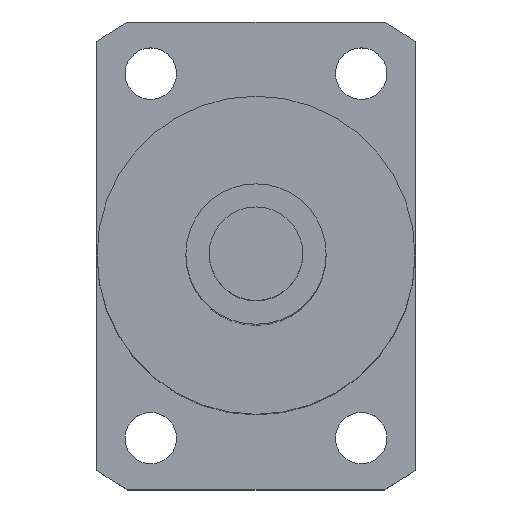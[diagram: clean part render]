
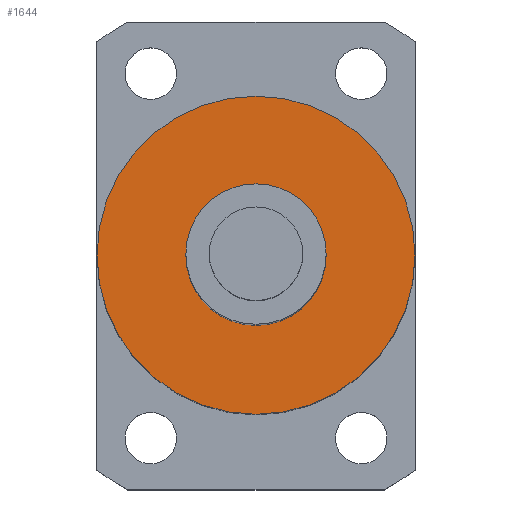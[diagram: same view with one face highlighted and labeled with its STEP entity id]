
A CAD part, top view. The second image highlights one B-rep face of the part: STEP entity #1644.
In plain terms, the highlighted planar face has unit normal (0, 0, 1).
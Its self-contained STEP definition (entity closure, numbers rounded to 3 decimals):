
#512=CARTESIAN_POINT('',(0.,0.,182.5));
#513=DIRECTION('',(0.,0.,1.));
#514=DIRECTION('',(1.,0.,0.));
#515=AXIS2_PLACEMENT_3D('',#512,#513,#514);
#517=CARTESIAN_POINT('',(0.,0.,182.5));
#518=DIRECTION('',(0.,0.,1.));
#519=DIRECTION('',(-1.,0.,0.));
#520=AXIS2_PLACEMENT_3D('',#517,#518,#519);
#522=CARTESIAN_POINT('',(0.,0.,182.5));
#523=DIRECTION('',(0.,0.,1.));
#524=DIRECTION('',(1.,0.,0.));
#525=AXIS2_PLACEMENT_3D('',#522,#523,#524);
#527=CARTESIAN_POINT('',(0.,0.,182.5));
#528=DIRECTION('',(0.,0.,1.));
#529=DIRECTION('',(-1.,0.,0.));
#530=AXIS2_PLACEMENT_3D('',#527,#528,#529);
#757=CARTESIAN_POINT('',(17.,0.,182.5));
#758=CARTESIAN_POINT('',(-17.,0.,182.5));
#759=VERTEX_POINT('',#757);
#760=VERTEX_POINT('',#758);
#769=CARTESIAN_POINT('',(7.5,0.,182.5));
#770=CARTESIAN_POINT('',(-7.5,0.,182.5));
#771=VERTEX_POINT('',#769);
#772=VERTEX_POINT('',#770);
#1629=CARTESIAN_POINT('',(0.,0.,182.5));
#1630=DIRECTION('',(0.,0.,1.));
#1631=DIRECTION('',(1.,0.,0.));
#1632=AXIS2_PLACEMENT_3D('',#1629,#1630,#1631);
#1633=PLANE('',#1632);
#1634=ORIENTED_EDGE('',*,*,#1609,.F.);
#1635=ORIENTED_EDGE('',*,*,#1623,.F.);
#1636=EDGE_LOOP('',(#1634,#1635));
#1637=FACE_OUTER_BOUND('',#1636,.F.);
#1639=ORIENTED_EDGE('',*,*,#1638,.T.);
#1641=ORIENTED_EDGE('',*,*,#1640,.T.);
#1642=EDGE_LOOP('',(#1639,#1641));
#1643=FACE_BOUND('',#1642,.F.);
#1644=ADVANCED_FACE('',(#1637,#1643),#1633,.T.);
#516=CIRCLE('',#515,17.);
#521=CIRCLE('',#520,17.);
#526=CIRCLE('',#525,7.5);
#531=CIRCLE('',#530,7.5);
#1609=EDGE_CURVE('',#759,#760,#516,.T.);
#1623=EDGE_CURVE('',#760,#759,#521,.T.);
#1638=EDGE_CURVE('',#771,#772,#526,.T.);
#1640=EDGE_CURVE('',#772,#771,#531,.T.);
